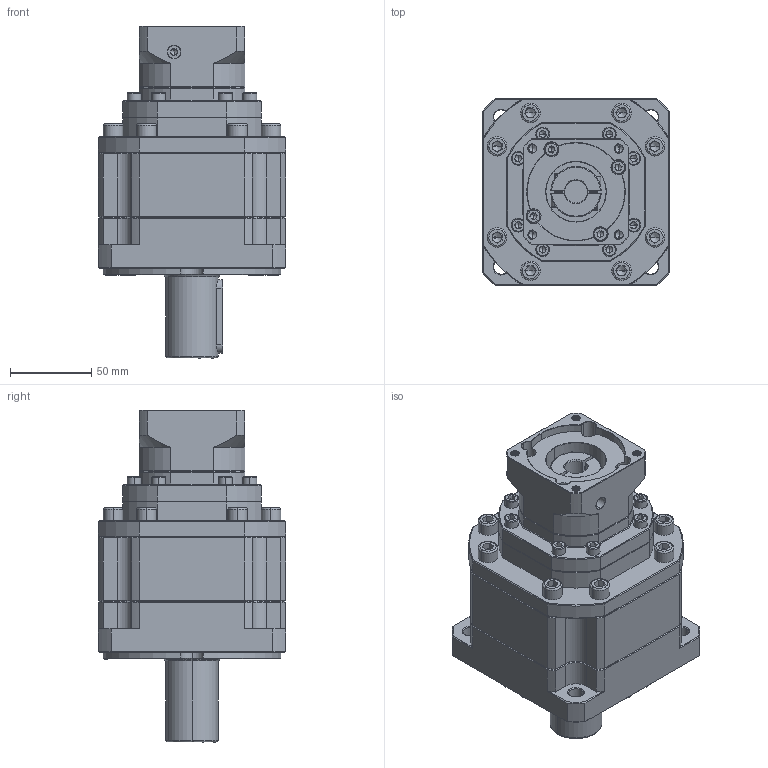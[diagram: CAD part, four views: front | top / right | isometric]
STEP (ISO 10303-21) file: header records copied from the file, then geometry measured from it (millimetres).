
FILE_DESCRIPTION (( 'STEP AP214' ), '1' );
FILE_NAME ('ZB115A-D32-L3-P2-14-60-75-M6.step', '2023-08-26T10:33:12', ( '' ), ( '' ), 'SwSTEP 2.0', 'SolidWorks 2016', '' );
FILE_SCHEMA (( 'AUTOMOTIVE_DESIGN' ));
Length unit declared in the file: millimetre
Products named in the file (1): ZB115A-D32-L3-P2-14-60-75-M6
Bounding box: 115 x 115 x 204 mm (x, y, z)
Volume: 1305728.9 mm3; surface area: 123617 mm2
Topology: 7 solids, 7 shells, 2564 faces, 6760 edges, 4306 vertices
Faces by surface type: plane 1306, cylinder 445, bspline 443, cone 348, torus 22
Entity records: 133234 total; most frequent: CARTESIAN_POINT 45166, ORIENTED_EDGE 13396, DIRECTION 10840, EDGE_CURVE 6698, VERTEX_POINT 4306, LINE 4292, VECTOR 4292, AXIS2_PLACEMENT_3D 3274
